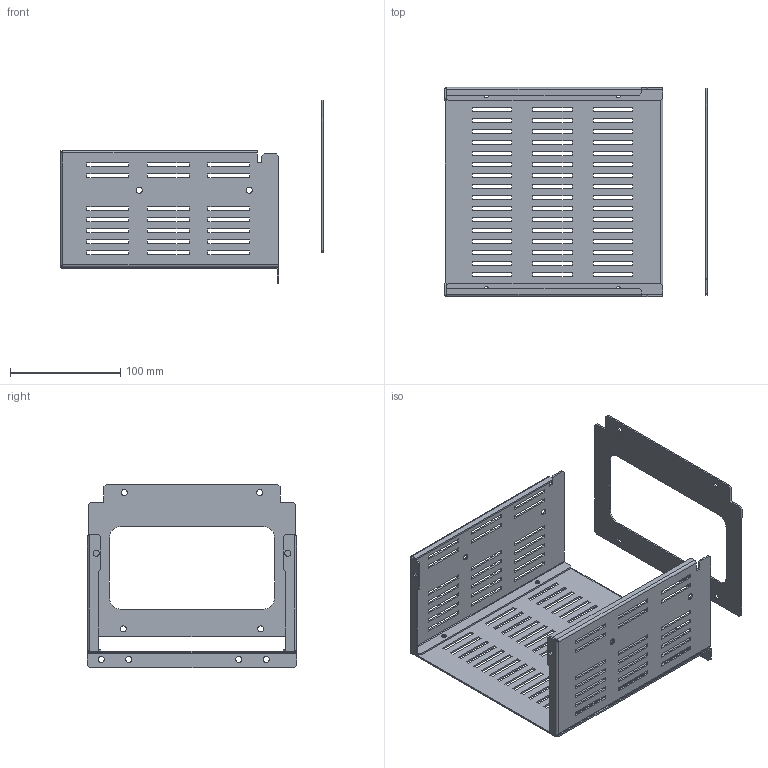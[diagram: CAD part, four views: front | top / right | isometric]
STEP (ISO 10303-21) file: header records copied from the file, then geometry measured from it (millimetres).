
FILE_DESCRIPTION(('CAx-IF Rec.Pracs.---Model Styling and Organization---1.2---2011-12-15','CAx-IF Rec.Pracs.---Geometric and Assembly Validation Properties---4.1---2014-06-16','CAx-IF Rec.Pracs.---PMI Polyline Presentation---2.0---2013-05-24'),'2;1');
FILE_NAME('R5M2W4MST3C.stp','2021-05-05T13:06:12+03:00',(''),(''),'STEP Interface 4.4 by CT CoreTechnologie','3D_Evolution4.4 by CT CoreTechnologie','');
FILE_SCHEMA(('AUTOMOTIVE_DESIGN { 1 0 10303 214 1 1 1 1 }'));
Length unit declared in the file: millimetre
Products named in the file (5): R5M2W4MST3C; RB.1263.00.00.0_-01; RB.1263.00.00.0_-00; RB.1458.00.00.0_-02; RB.1459.00.00.0_-02
Assembly tree (4 placements, depth 2):
  R5M2W4MST3C
    RB.1263.00.00.0_-01
    RB.1263.00.00.0_-00
    RB.1458.00.00.0_-02
    RB.1459.00.00.0_-02
Bounding box: 239 x 190 x 166.75 mm (x, y, z)
Surface area: 199401.5 mm2 (no closed solid volume)
Topology: 0 solids, 4 shells, 530 faces, 1520 edges, 998 vertices
Faces by surface type: plane 460, cylinder 62, bspline 8
Entity records: 17891 total; most frequent: CARTESIAN_POINT 3306, ORIENTED_EDGE 3040, DIRECTION 2687, EDGE_CURVE 1520, VECTOR 1393, LINE 1393, VERTEX_POINT 998, EDGE_LOOP 756
